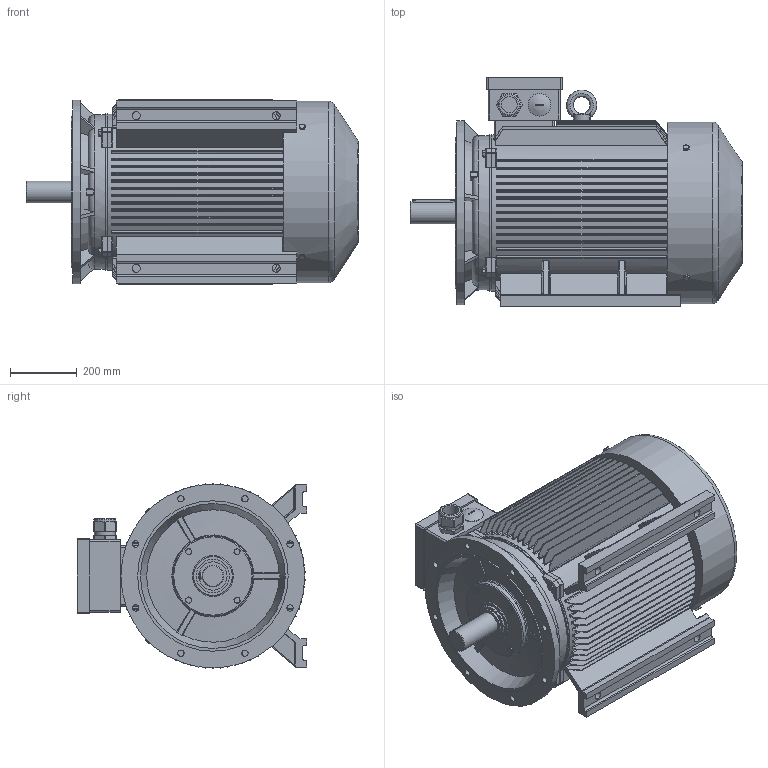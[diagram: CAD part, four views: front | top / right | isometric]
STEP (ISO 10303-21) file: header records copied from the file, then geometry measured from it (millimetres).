
FILE_DESCRIPTION(/* description */ ('01-IP55-Cast Iron-IE4-280M B35-2'),/* implementation_level */ '2;1');
FILE_NAME(/* name */ 'D:\02 - Onedrive\OneDrive\01 - Werkbestanden\121 - OMEC\1408 - MOTOREN CAD BIBLIOTHEEK\1408 - Gereed\OMT1-IE4\01-IP55-Cast Iron-IE4-280M B35-2.stp',/* time_stamp */ '2017-10-20T14:36:48+02:00',/* author */ ('freek'),/* organization */ (''),/* preprocessor_version */ 'ST-DEVELOPER v16.1',/* originating_system */ 'Autodesk Inventor 2016',/* authorisation */ '');
FILE_SCHEMA (('AUTOMOTIVE_DESIGN { 1 0 10303 214 3 1 1 }'));
Products named in the file (1): 1408-764
Bounding box: 993.1 x 685 x 552.15 mm (x, y, z)
Volume: 165577101.7 mm3; surface area: 5072646.8 mm2
Topology: 3 solids, 16 shells, 3438 faces, 8398 edges, 5465 vertices
Faces by surface type: plane 2759, cylinder 400, cone 211, bspline 31, torus 23, sphere 14
Full cylindrical faces by diameter (mm): 9.188 x4, 10 x12, 11.053 x4, 11.5 x1, 12 x8, 15.4 x8, 17.2 x4, 19 x8, 24 x4, 48 x1, 63 x1, 65 x1, 66 x1, 68 x1, 85 x1, 94.8 x1, 99.8 x1, 100 x1, 116 x1, 240 x2, 296 x1, 450 x1, 462 x1, 468 x2, 543 x1, 550 x1
Entity records: 108934 total; most frequent: CARTESIAN_POINT 26199, ORIENTED_EDGE 16550, DIRECTION 15186, EDGE_CURVE 8260, LINE 6576, VECTOR 6576, VERTEX_POINT 5438, AXIS2_PLACEMENT_3D 4305
